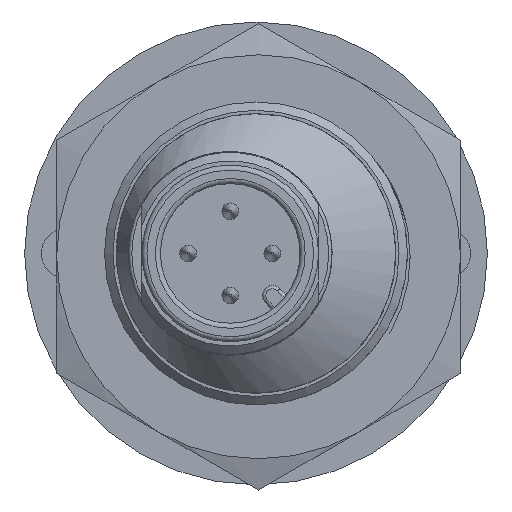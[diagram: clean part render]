
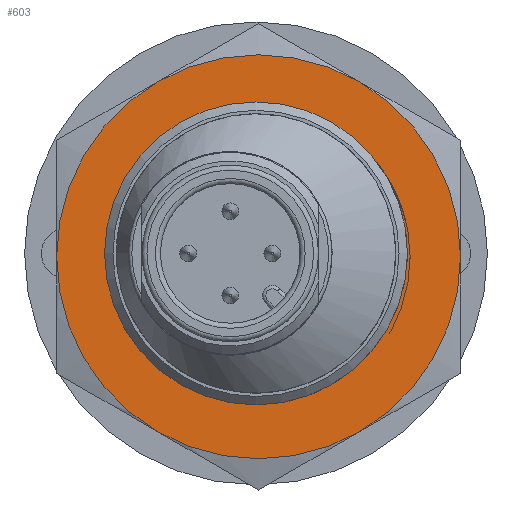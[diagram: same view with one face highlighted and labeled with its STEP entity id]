
A CAD part, left-side view. The second image highlights one B-rep face of the part: STEP entity #603.
In plain terms, the highlighted planar face has unit normal (-1, 0, 0).
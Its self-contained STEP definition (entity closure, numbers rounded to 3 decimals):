
#603 = ADVANCED_FACE( '', ( #1250, #1251 ), #1252, .T. );
#1250 = FACE_BOUND( '', #3133, .T. );
#1251 = FACE_OUTER_BOUND( '', #3134, .T. );
#1252 = PLANE( '', #3135 );
#3133 = EDGE_LOOP( '', ( #4985 ) );
#3134 = EDGE_LOOP( '', ( #4986, #4987, #4988, #4989, #4990, #4991 ) );
#3135 = AXIS2_PLACEMENT_3D( '', #4992, #4993, #4994 );
#4985 = ORIENTED_EDGE( '', *, *, #5459, .F. );
#4986 = ORIENTED_EDGE( '', *, *, #5435, .F. );
#4987 = ORIENTED_EDGE( '', *, *, #5438, .F. );
#4988 = ORIENTED_EDGE( '', *, *, #5714, .F. );
#4989 = ORIENTED_EDGE( '', *, *, #5760, .F. );
#4990 = ORIENTED_EDGE( '', *, *, #5593, .T. );
#4991 = ORIENTED_EDGE( '', *, *, #5429, .T. );
#4992 = CARTESIAN_POINT( '', ( -2., 12.445, 14.349 ) );
#4993 = DIRECTION( '', ( -1., 0., 0. ) );
#4994 = DIRECTION( '', ( 0., 0., 1. ) );
#5429 = EDGE_CURVE( '', #6125, #6127, #6129, .F. );
#5435 = EDGE_CURVE( '', #5813, #6127, #6138, .T. );
#5438 = EDGE_CURVE( '', #6141, #5813, #6142, .T. );
#5459 = EDGE_CURVE( '', #6174, #6174, #6175, .T. );
#5593 = EDGE_CURVE( '', #6371, #6125, #6373, .F. );
#5714 = EDGE_CURVE( '', #6315, #6141, #6532, .T. );
#5760 = EDGE_CURVE( '', #6371, #6315, #6586, .T. );
#5813 = VERTEX_POINT( '', #6650 );
#6125 = VERTEX_POINT( '', #7471 );
#6127 = VERTEX_POINT( '', #7478 );
#6129 = CIRCLE( '', #7485, 12. );
#6138 = CIRCLE( '', #7504, 12. );
#6141 = VERTEX_POINT( '', #7512 );
#6142 = CIRCLE( '', #7513, 12. );
#6174 = VERTEX_POINT( '', #7631 );
#6175 = CIRCLE( '', #7632, 8.459 );
#6315 = VERTEX_POINT( '', #8110 );
#6371 = VERTEX_POINT( '', #8223 );
#6373 = CIRCLE( '', #8230, 12. );
#6532 = CIRCLE( '', #8734, 12. );
#6586 = CIRCLE( '', #8838, 12. );
#6650 = CARTESIAN_POINT( '', ( -2., 5.845, -10.592 ) );
#7471 = CARTESIAN_POINT( '', ( -2., 5.845, 10.192 ) );
#7478 = CARTESIAN_POINT( '', ( -2., 11.845, -0.2 ) );
#7485 = AXIS2_PLACEMENT_3D( '', #9114, #9115, #9116 );
#7504 = AXIS2_PLACEMENT_3D( '', #9120, #9121, #9122 );
#7512 = CARTESIAN_POINT( '', ( -2., -6.155, -10.592 ) );
#7513 = AXIS2_PLACEMENT_3D( '', #9123, #9124, #9125 );
#7631 = CARTESIAN_POINT( '', ( -2., 0., 8.459 ) );
#7632 = AXIS2_PLACEMENT_3D( '', #9139, #9140, #9141 );
#8110 = CARTESIAN_POINT( '', ( -2., -12.155, -0.2 ) );
#8223 = CARTESIAN_POINT( '', ( -2., -6.155, 10.192 ) );
#8230 = AXIS2_PLACEMENT_3D( '', #9265, #9266, #9267 );
#8734 = AXIS2_PLACEMENT_3D( '', #9375, #9376, #9377 );
#8838 = AXIS2_PLACEMENT_3D( '', #9405, #9406, #9407 );
#9114 = CARTESIAN_POINT( '', ( -2., -0.155, -0.2 ) );
#9115 = DIRECTION( '', ( 1., 0., 0. ) );
#9116 = DIRECTION( '', ( 0., 0., -1. ) );
#9120 = CARTESIAN_POINT( '', ( -2., -0.155, -0.2 ) );
#9121 = DIRECTION( '', ( 1., 0., 0. ) );
#9122 = DIRECTION( '', ( 0., 0., -1. ) );
#9123 = CARTESIAN_POINT( '', ( -2., -0.155, -0.2 ) );
#9124 = DIRECTION( '', ( 1., 0., 0. ) );
#9125 = DIRECTION( '', ( 0., 0., -1. ) );
#9139 = CARTESIAN_POINT( '', ( -2., 0., 0. ) );
#9140 = DIRECTION( '', ( -1., 0., 0. ) );
#9141 = DIRECTION( '', ( 0., 0., 1. ) );
#9265 = CARTESIAN_POINT( '', ( -2., -0.155, -0.2 ) );
#9266 = DIRECTION( '', ( 1., 0., 0. ) );
#9267 = DIRECTION( '', ( 0., 0., -1. ) );
#9375 = CARTESIAN_POINT( '', ( -2., -0.155, -0.2 ) );
#9376 = DIRECTION( '', ( 1., 0., 0. ) );
#9377 = DIRECTION( '', ( 0., 0., -1. ) );
#9405 = CARTESIAN_POINT( '', ( -2., -0.155, -0.2 ) );
#9406 = DIRECTION( '', ( 1., 0., 0. ) );
#9407 = DIRECTION( '', ( 0., 0., -1. ) );
